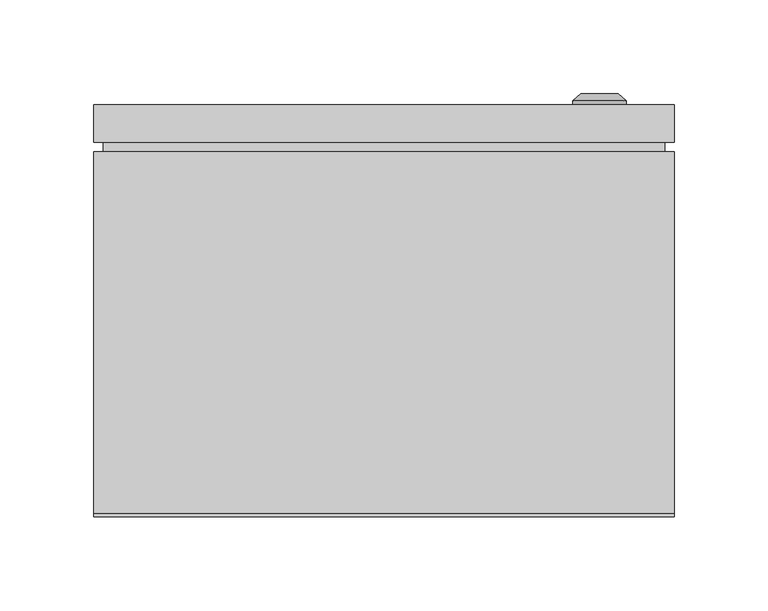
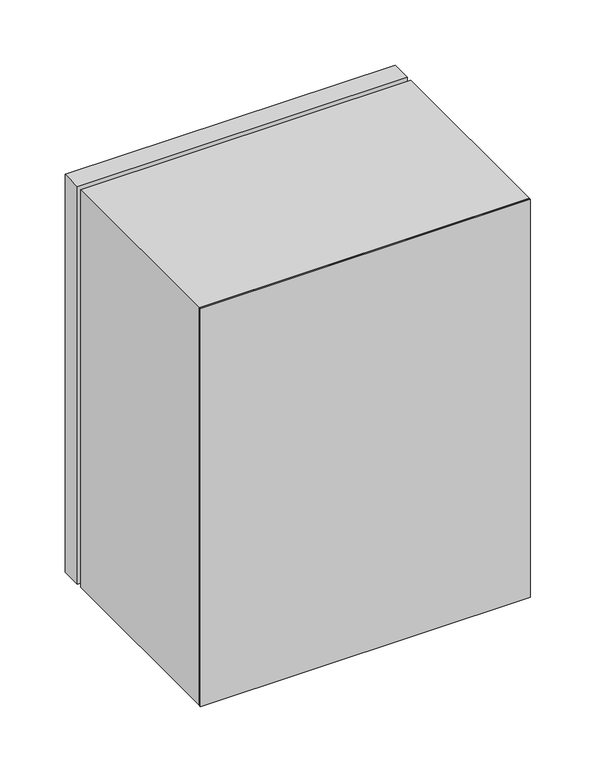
"""IFC4 building model written with IfcOpenShell, lengths in millimetres: proxy geometry, ЩМП_IP65 : ЩМП-1-0_395х310х220."""

from ifc_helpers import new_model, si_unit, frame, origin, origin_with_axes, place, context, project, spatial, polyline, circle_curve, outline, extrude, source, transform, mapped, element, save
from ifc_brep_helpers import plane_surface, cylinder_surface, revolved_surface, advanced_brep


def electrical_equipment_cd438415(model_context):
    return source(origin(), model_context, "Body", "SolidModel", [
        extrude(outline(polyline([(150.0, 195.0), (-150.0, 195.0), (-150.0, 200.0), (150.0, 200.0), (150.0, 195.0)])), frame((0.0, 0.0, 5.0), z_axis=(0.0, 0.0, 1.0), x_axis=(1.0, 0.0, 0.0)), (0.0, 0.0, 1.0), 385.0),
        extrude(outline(polyline([(155.0, 200.0), (-155.0, 200.0), (-155.0, 220.0), (155.0, 220.0), (155.0, 200.0)])), origin_with_axes(), (0.0, 0.0, 1.0), 395.0),
        advanced_brep(
        [(100.669873, 220.0, 195.0), (129.330127, 220.0, 195.0), (115.0, 220.0, 195.0), (100.669873, 222.366592, 195.0), (129.330127, 222.366592, 195.0), (105.0, 226.0, 195.0), (125.0, 226.0, 195.0), (113.1080471, 226.0, 195.0), (116.8919529, 226.0, 195.0), (113.1080471, 224.9822294, 195.0), (116.8919529, 224.9822294, 195.0), (115.0, 224.9822294, 195.0)],
        [
            (0, 1, circle_curve(frame((115.0, 220.0, 195.0), z_axis=(0.0, -1.0, 0.0), x_axis=(1.0, 0.0, 0.0)), 14.330127)),
            (1, 2),
            (2, 0),
            (1, 0, circle_curve(frame((115.0, 220.0, 195.0), z_axis=(0.0, -1.0, 0.0), x_axis=(1.0, 0.0, 0.0)), 14.330127)),
            (3, 4, circle_curve(frame((115.0, 222.366592, 195.0), z_axis=(0.0, -1.0, 0.0), x_axis=(1.0, 0.0, 0.0)), 14.330127)),
            (4, 1),
            (0, 3),
            (4, 3, circle_curve(frame((115.0, 222.366592, 195.0), z_axis=(0.0, -1.0, 0.0), x_axis=(1.0, 0.0, 0.0)), 14.330127)),
            (5, 6, circle_curve(frame((115.0, 226.0, 195.0), z_axis=(0.0, -1.0, 0.0), x_axis=(1.0, 0.0, 0.0)), 10.0)),
            (6, 4),
            (3, 5),
            (6, 5, circle_curve(frame((115.0, 226.0, 195.0), z_axis=(0.0, -1.0, 0.0), x_axis=(1.0, 0.0, 0.0)), 10.0)),
            (7, 8, circle_curve(frame((115.0, 226.0, 195.0), z_axis=(0.0, -1.0, 0.0), x_axis=(1.0, 0.0, 0.0)), 1.8919529)),
            (8, 6),
            (5, 7),
            (8, 7, circle_curve(frame((115.0, 226.0, 195.0), z_axis=(0.0, -1.0, 0.0), x_axis=(1.0, 0.0, 0.0)), 1.8919529)),
            (9, 10, circle_curve(frame((115.0, 224.9822294, 195.0), z_axis=(0.0, -1.0, 0.0), x_axis=(1.0, 0.0, 0.0)), 1.8919529)),
            (10, 8),
            (7, 9),
            (10, 9, circle_curve(frame((115.0, 224.9822294, 195.0), z_axis=(0.0, -1.0, 0.0), x_axis=(1.0, 0.0, 0.0)), 1.8919529)),
            (11, 10),
            (9, 11),
        ],
        [
            plane_surface(frame((115.0, 220.0, 195.0), z_axis=(0.0, -1.0, 0.0), x_axis=(1.0, 0.0, 0.0))),
            cylinder_surface(frame((115.0, 233.1348851, 195.0), z_axis=(0.0, 1.0, 0.0), x_axis=(1.0, 0.0, 0.0)), 14.330127),
            revolved_surface(polyline([(129.330127, 222.366592, 195.0), (125.0, 226.0, 195.0)]), (115.0, 233.1348851, 195.0), (0.0, 1.0, 0.0)),
            plane_surface(frame((115.0, 226.0, 195.0), z_axis=(0.0, 1.0, 0.0), x_axis=(1.0, 0.0, 0.0))),
            revolved_surface(polyline([(116.8919529, 226.0, 195.0), (116.8919529, 224.9822294, 195.0)]), (115.0, 233.1348851, 195.0), (0.0, 1.0, 0.0)),
            plane_surface(frame((115.0, 224.9822294, 195.0), z_axis=(0.0, 1.0, 0.0), x_axis=(1.0, 0.0, 0.0))),
        ],
        [
            (0, [[1, 2, 3]]),
            (0, [[4, -3, -2]]),
            (1, [[5, 6, -1, 7]]),
            (1, [[8, -7, -4, -6]]),
            (2, [[9, 10, -5, 11]]),
            (2, [[12, -11, -8, -10]]),
            (3, [[13, 14, -9, 15]]),
            (3, [[16, -15, -12, -14]]),
            (4, [[17, 18, -13, 19]]),
            (4, [[20, -19, -16, -18]]),
            (5, [[21, -17, 22]]),
            (5, [[-22, -20, -21]]),
        ],
    ),
        extrude(outline(polyline([(395.0, -155.0033905), (0.0, -155.0033905), (0.0, 154.9966095), (395.0, 154.9966095), (395.0, -155.0033905)]), holes=[polyline([(360.0, -125.0033905), (360.0, 124.9966095), (30.0, 124.9966095), (30.0, -125.0033905), (360.0, -125.0033905)])]), frame((0.0, 2.0, 0.0), z_axis=(0.0, 1.0, 0.0), x_axis=(0.0, 0.0, 1.0)), (0.0, 0.0, 1.0), 193.0),
        extrude(outline(polyline([(155.0, 0.0), (-155.0, 0.0), (-155.0, 2.0), (155.0, 2.0), (155.0, 0.0)])), origin_with_axes(), (0.0, 0.0, 1.0), 395.0),
    ])


if __name__ == "__main__":
    model = new_model("IFC4")
    model_context = context("Model", 3, world=origin())
    ifc_project = project(units=[si_unit("LENGTHUNIT", "METRE", prefix="MILLI")], contexts=[model_context])
    site = spatial("IfcSite", under=ifc_project)
    building = spatial("IfcBuilding", under=site)
    placement = place(None, origin())
    electrical_equipment_shape = electrical_equipment_cd438415(model_context)
    element("IfcBuildingElementProxy", 1, Name="ЩМП_IP65 : ЩМП-1-0_395х310х220", ObjectType="ЩМП_IP65 : ЩМП-1-0_395х310х220", at=placement, inside=building, context=model_context, shape_type="MappedRepresentation", body=[
        mapped(electrical_equipment_shape, transform((0.0, 0.0, 0.0), x_axis=(1.0, 0.0, 0.0), y_axis=(0.0, 1.0, 0.0), z_axis=(0.0, 0.0, 1.0))),
    ])
    save(model, "model.ifc")
